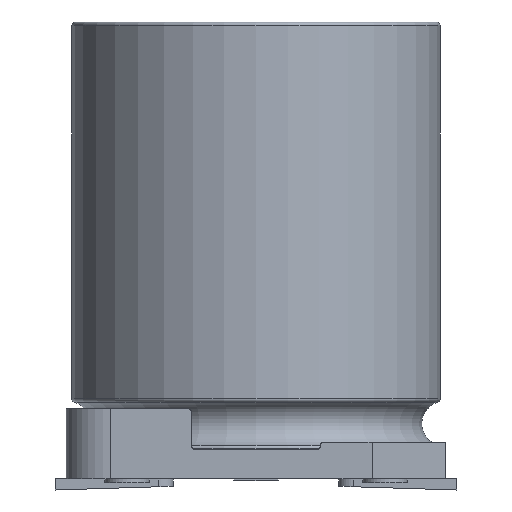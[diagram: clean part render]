
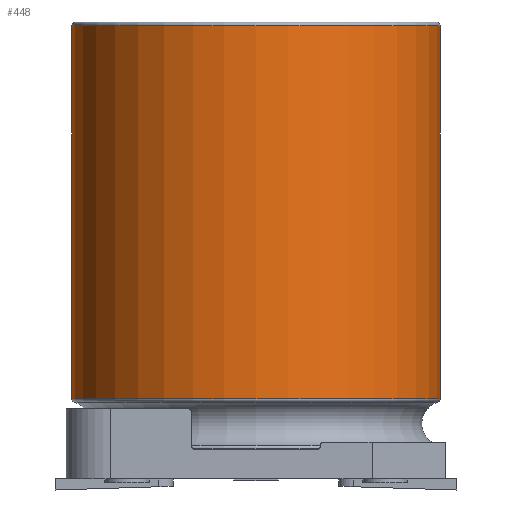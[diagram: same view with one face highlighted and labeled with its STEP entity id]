
A CAD part, front view. The second image highlights one B-rep face of the part: STEP entity #448.
In plain terms, the highlighted cylindrical face has radius 5 mm (diameter 10 mm), a full revolution.
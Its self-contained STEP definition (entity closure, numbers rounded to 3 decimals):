
#220=CYLINDRICAL_SURFACE('',#2509,5.);
#448=ADVANCED_FACE('',(#602,#603),#220,.T.);
#602=FACE_BOUND('',#680,.T.);
#603=FACE_BOUND('',#681,.T.);
#680=EDGE_LOOP('',(#1139));
#681=EDGE_LOOP('',(#1140));
#802=CIRCLE('',#2507,5.);
#803=CIRCLE('',#2508,5.);
#1139=ORIENTED_EDGE('',*,*,#1860,.T.);
#1140=ORIENTED_EDGE('',*,*,#1861,.T.);
#1609=VERTEX_POINT('',#3786);
#1610=VERTEX_POINT('',#3788);
#1860=EDGE_CURVE('',#1609,#1609,#802,.T.);
#1861=EDGE_CURVE('',#1610,#1610,#803,.T.);
#2507=AXIS2_PLACEMENT_3D('',#3785,#2935,#2936);
#2508=AXIS2_PLACEMENT_3D('',#3787,#2937,#2938);
#2509=AXIS2_PLACEMENT_3D('',#3789,#2939,#2940);
#2935=DIRECTION('',(0.,0.,1.));
#2936=DIRECTION('',(1.,0.,0.));
#2937=DIRECTION('',(0.,0.,-1.));
#2938=DIRECTION('',(-1.,0.,0.));
#2939=DIRECTION('',(0.,0.,-1.));
#2940=DIRECTION('',(-1.,0.,0.));
#3785=CARTESIAN_POINT('',(0.,0.,2.178));
#3786=CARTESIAN_POINT('',(5.,0.,2.178));
#3787=CARTESIAN_POINT('',(0.,0.,12.3));
#3788=CARTESIAN_POINT('',(-5.,0.,12.3));
#3789=CARTESIAN_POINT('',(0.,0.,0.));
